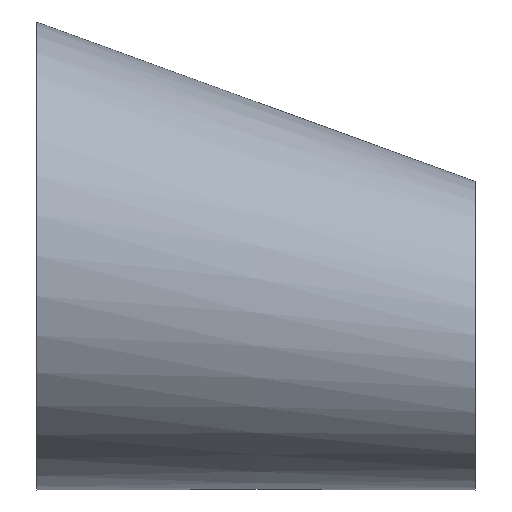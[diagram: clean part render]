
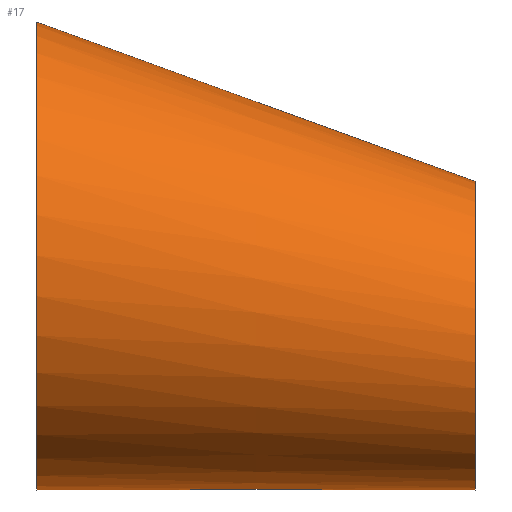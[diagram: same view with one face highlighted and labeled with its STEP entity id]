
A CAD part, top view. The second image highlights one B-rep face of the part: STEP entity #17.
In plain terms, the highlighted free-form (B-spline) face has degree [11, 1] with [22, 2] control points.
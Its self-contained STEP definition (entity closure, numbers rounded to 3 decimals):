
#17 = ADVANCED_FACE('',(#18),#31,.T.);
#18 = FACE_BOUND('',#19,.T.);
#19 = EDGE_LOOP('',(#20,#94,#116,#143));
#20 = ORIENTED_EDGE('',*,*,#21,.T.);
#21 = EDGE_CURVE('',#22,#22,#24,.T.);
#22 = VERTEX_POINT('',#23);
#23 = CARTESIAN_POINT('',(0.,64.5,0.));
#24 = SURFACE_CURVE('',#25,(#30,#82),.PCURVE_S1.);
#25 = CIRCLE('',#26,64.5);
#26 = AXIS2_PLACEMENT_3D('',#27,#28,#29);
#27 = CARTESIAN_POINT('',(0.,0.,0.));
#28 = DIRECTION('',(1.,0.,0.));
#29 = DIRECTION('',(0.,1.,0.));
#30 = PCURVE('',#31,#76);
#31 = B_SPLINE_SURFACE_WITH_KNOTS('',11,1,(
    (#32,#33)
    ,(#34,#35)
    ,(#36,#37)
    ,(#38,#39)
    ,(#40,#41)
    ,(#42,#43)
    ,(#44,#45)
    ,(#46,#47)
    ,(#48,#49)
    ,(#50,#51)
    ,(#52,#53)
    ,(#54,#55)
    ,(#56,#57)
    ,(#58,#59)
    ,(#60,#61)
    ,(#62,#63)
    ,(#64,#65)
    ,(#66,#67)
    ,(#68,#69)
    ,(#70,#71)
    ,(#72,#73)
    ,(#74,#75
    )),.UNSPECIFIED.,.T.,.F.,.F.,(12,10,12),(2,2),(0.,3.142,
    6.283),(0.,1.),.UNSPECIFIED.);
#32 = CARTESIAN_POINT('',(0.,64.5,0.));
#33 = CARTESIAN_POINT('',(121.,20.5,0.));
#34 = CARTESIAN_POINT('',(0.,64.5,18.421));
#35 = CARTESIAN_POINT('',(121.,20.5,12.138));
#36 = CARTESIAN_POINT('',(0.,58.713,36.842));
#37 = CARTESIAN_POINT('',(121.,16.687,
    24.276));
#38 = CARTESIAN_POINT('',(0.,47.138,53.243));
#39 = CARTESIAN_POINT('',(121.,9.06,35.083
    ));
#40 = CARTESIAN_POINT('',(0.,30.57,65.604));
#41 = CARTESIAN_POINT('',(121.,-1.857,
    43.228));
#42 = CARTESIAN_POINT('',(0.,10.595,72.261));
#43 = CARTESIAN_POINT('',(121.,-15.019,
    47.614));
#44 = CARTESIAN_POINT('',(0.,-10.595,72.261));
#45 = CARTESIAN_POINT('',(121.,-28.981,47.614)
  );
#46 = CARTESIAN_POINT('',(0.,-30.57,65.604));
#47 = CARTESIAN_POINT('',(121.,-42.143,
    43.228));
#48 = CARTESIAN_POINT('',(0.,-47.138,53.243));
#49 = CARTESIAN_POINT('',(121.,-53.06,35.083
    ));
#50 = CARTESIAN_POINT('',(0.,-58.713,36.842));
#51 = CARTESIAN_POINT('',(121.,-60.687,
    24.276));
#52 = CARTESIAN_POINT('',(0.,-64.5,18.421));
#53 = CARTESIAN_POINT('',(121.,-64.5,12.138));
#54 = CARTESIAN_POINT('',(0.,-64.5,-18.421));
#55 = CARTESIAN_POINT('',(121.,-64.5,-12.138));
#56 = CARTESIAN_POINT('',(0.,-58.713,-36.842));
#57 = CARTESIAN_POINT('',(121.,-60.687,
    -24.276));
#58 = CARTESIAN_POINT('',(0.,-47.138,-53.243));
#59 = CARTESIAN_POINT('',(121.,-53.06,
    -35.083));
#60 = CARTESIAN_POINT('',(0.,-30.57,-65.604));
#61 = CARTESIAN_POINT('',(121.,-42.143,-43.228));
#62 = CARTESIAN_POINT('',(0.,-10.595,-72.261));
#63 = CARTESIAN_POINT('',(121.,-28.981,
    -47.614));
#64 = CARTESIAN_POINT('',(0.,10.595,-72.261));
#65 = CARTESIAN_POINT('',(121.,-15.019,
    -47.614));
#66 = CARTESIAN_POINT('',(0.,30.57,-65.604));
#67 = CARTESIAN_POINT('',(121.,-1.857,
    -43.228));
#68 = CARTESIAN_POINT('',(0.,47.138,-53.243));
#69 = CARTESIAN_POINT('',(121.,9.06,-35.083
    ));
#70 = CARTESIAN_POINT('',(0.,58.713,-36.842));
#71 = CARTESIAN_POINT('',(121.,16.687,-24.276
    ));
#72 = CARTESIAN_POINT('',(0.,64.5,-18.421));
#73 = CARTESIAN_POINT('',(121.,20.5,-12.138));
#74 = CARTESIAN_POINT('',(0.,64.5,0.));
#75 = CARTESIAN_POINT('',(121.,20.5,0.));
#76 = DEFINITIONAL_REPRESENTATION('',(#77),#81);
#77 = LINE('',#78,#79);
#78 = CARTESIAN_POINT('',(0.,0.));
#79 = VECTOR('',#80,1.);
#80 = DIRECTION('',(1.,0.));
#81 = ( GEOMETRIC_REPRESENTATION_CONTEXT(2) 
PARAMETRIC_REPRESENTATION_CONTEXT() REPRESENTATION_CONTEXT('2D SPACE',''
  ) );
#82 = PCURVE('',#83,#88);
#83 = PLANE('',#84);
#84 = AXIS2_PLACEMENT_3D('',#85,#86,#87);
#85 = CARTESIAN_POINT('',(0.,0.,0.));
#86 = DIRECTION('',(1.,0.,0.));
#87 = DIRECTION('',(0.,1.,0.));
#88 = DEFINITIONAL_REPRESENTATION('',(#89),#93);
#89 = CIRCLE('',#90,64.5);
#90 = AXIS2_PLACEMENT_2D('',#91,#92);
#91 = CARTESIAN_POINT('',(0.,0.));
#92 = DIRECTION('',(1.,0.));
#93 = ( GEOMETRIC_REPRESENTATION_CONTEXT(2) 
PARAMETRIC_REPRESENTATION_CONTEXT() REPRESENTATION_CONTEXT('2D SPACE',''
  ) );
#94 = ORIENTED_EDGE('',*,*,#95,.T.);
#95 = EDGE_CURVE('',#22,#96,#98,.T.);
#96 = VERTEX_POINT('',#97);
#97 = CARTESIAN_POINT('',(121.,20.5,0.));
#98 = SEAM_CURVE('',#99,(#102,#109),.PCURVE_S1.);
#99 = B_SPLINE_CURVE_WITH_KNOTS('',1,(#100,#101),.UNSPECIFIED.,.F.,.F.,(
    2,2),(0.,1.),.PIECEWISE_BEZIER_KNOTS.);
#100 = CARTESIAN_POINT('',(0.,64.5,0.));
#101 = CARTESIAN_POINT('',(121.,20.5,0.));
#102 = PCURVE('',#31,#103);
#103 = DEFINITIONAL_REPRESENTATION('',(#104),#108);
#104 = LINE('',#105,#106);
#105 = CARTESIAN_POINT('',(6.283,0.));
#106 = VECTOR('',#107,1.);
#107 = DIRECTION('',(0.,1.));
#108 = ( GEOMETRIC_REPRESENTATION_CONTEXT(2) 
PARAMETRIC_REPRESENTATION_CONTEXT() REPRESENTATION_CONTEXT('2D SPACE',''
  ) );
#109 = PCURVE('',#31,#110);
#110 = DEFINITIONAL_REPRESENTATION('',(#111),#115);
#111 = LINE('',#112,#113);
#112 = CARTESIAN_POINT('',(0.,0.));
#113 = VECTOR('',#114,1.);
#114 = DIRECTION('',(0.,1.));
#115 = ( GEOMETRIC_REPRESENTATION_CONTEXT(2) 
PARAMETRIC_REPRESENTATION_CONTEXT() REPRESENTATION_CONTEXT('2D SPACE',''
  ) );
#116 = ORIENTED_EDGE('',*,*,#117,.F.);
#117 = EDGE_CURVE('',#96,#96,#118,.T.);
#118 = SURFACE_CURVE('',#119,(#124,#131),.PCURVE_S1.);
#119 = CIRCLE('',#120,42.5);
#120 = AXIS2_PLACEMENT_3D('',#121,#122,#123);
#121 = CARTESIAN_POINT('',(121.,-22.,0.));
#122 = DIRECTION('',(1.,0.,0.));
#123 = DIRECTION('',(0.,1.,0.));
#124 = PCURVE('',#31,#125);
#125 = DEFINITIONAL_REPRESENTATION('',(#126),#130);
#126 = LINE('',#127,#128);
#127 = CARTESIAN_POINT('',(0.,1.));
#128 = VECTOR('',#129,1.);
#129 = DIRECTION('',(1.,0.));
#130 = ( GEOMETRIC_REPRESENTATION_CONTEXT(2) 
PARAMETRIC_REPRESENTATION_CONTEXT() REPRESENTATION_CONTEXT('2D SPACE',''
  ) );
#131 = PCURVE('',#132,#137);
#132 = PLANE('',#133);
#133 = AXIS2_PLACEMENT_3D('',#134,#135,#136);
#134 = CARTESIAN_POINT('',(121.,-22.,0.));
#135 = DIRECTION('',(1.,0.,0.));
#136 = DIRECTION('',(0.,1.,0.));
#137 = DEFINITIONAL_REPRESENTATION('',(#138),#142);
#138 = CIRCLE('',#139,42.5);
#139 = AXIS2_PLACEMENT_2D('',#140,#141);
#140 = CARTESIAN_POINT('',(0.,0.));
#141 = DIRECTION('',(1.,0.));
#142 = ( GEOMETRIC_REPRESENTATION_CONTEXT(2) 
PARAMETRIC_REPRESENTATION_CONTEXT() REPRESENTATION_CONTEXT('2D SPACE',''
  ) );
#143 = ORIENTED_EDGE('',*,*,#95,.F.);
